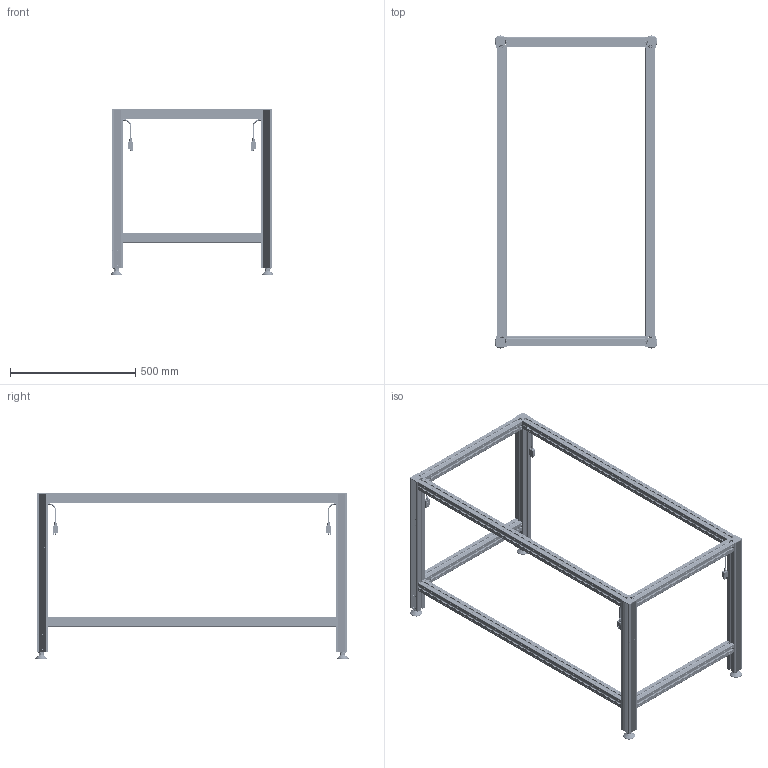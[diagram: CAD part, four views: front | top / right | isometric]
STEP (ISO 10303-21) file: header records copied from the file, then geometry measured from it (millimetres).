
FILE_DESCRIPTION(/* description */ ('Unknown'),/* implementation_level */ '2;1');
FILE_NAME(/* name */ 'Untergestell SQ.3 4330 1195 XX XX_00-Eingefahren',/* time_stamp */ '2022-02-04T13:31:03+01:00',/* author */ ('Unknown'),/* organization */ ('Unknown'),/* preprocessor_version */ 'ST-DEVELOPER v18.1',/* originating_system */ 'Solid Edge',/* authorisation */ 'Unknown');
FILE_SCHEMA (('AUTOMOTIVE_DESIGN {1 0 10303 214 3 1 1}'));
Products named in the file (21): Untergestell SQ.3 4330 1195 XX XX; 907.02003_oa_0; 142.00014; 119.00500; 122.00005; 142.00020; 123.00110; 125.00051; 128.00040; Kabel Molex; 907.02003_oa_1; 115.00100; 119.00190; 142.00210; 113.00006; 113.00006-ohne Mutter; Mutter M10; 907.02003_oa_2; 907.02003_oa_3; 115.00103; 119.00193
Assembly tree (79 placements, depth 3):
  Untergestell SQ.3 4330 1195 XX XX
    907.02003_oa_0
      142.00014  x4
      119.00500
      122.00005
      142.00020  x4
      123.00110
      125.00051
      128.00040
      Kabel Molex
    907.02003_oa_1
      142.00014  x4
      119.00500
      122.00005
      142.00020  x4
      123.00110
      125.00051
      128.00040
      Kabel Molex
    115.00100  x4
      119.00190
      142.00210
    113.00006  x4
      113.00006-ohne Mutter
      Mutter M10
    907.02003_oa_2
      142.00014  x4
      119.00500
      122.00005
      142.00020  x4
      123.00110
      125.00051
      128.00040
      Kabel Molex
    907.02003_oa_3
      142.00014  x4
      119.00500
      122.00005
      142.00020  x4
      123.00110
      125.00051
      128.00040
      Kabel Molex
    115.00103  x3
      119.00193
      142.00210
Bounding box: 651 x 1251 x 663 mm (x, y, z)
Volume: 6443947.1 mm3; surface area: 4588501.1 mm2
Topology: 99 solids, 99 shells, 13892 faces, 39146 edges, 25572 vertices
Faces by surface type: plane 7616, cylinder 4786, bspline 700, cone 310, torus 306, sphere 174
Full cylindrical faces by diameter (mm): 2.5 x52, 3 x16, 4 x48, 5 x40, 6.647 x4, 7.8 x14, 8.376 x12, 9.5 x4, 10 x4, 11.3 x14, 11.5 x14, 12 x14, 12.2 x14, 13.5 x14, 15 x4, 17.3 x4, 18 x28, 18.1 x14, 19 x8, 20.8 x12, 21 x8, 25 x12, 29 x4, 30 x8, 35 x4, 39 x4, 47 x4
Entity records: 120083 total; most frequent: CARTESIAN_POINT 27187, ORIENTED_EDGE 19200, DIRECTION 17815, EDGE_CURVE 9600, VERTEX_POINT 6349, AXIS2_PLACEMENT_3D 5949, LINE 5917, VECTOR 5917
